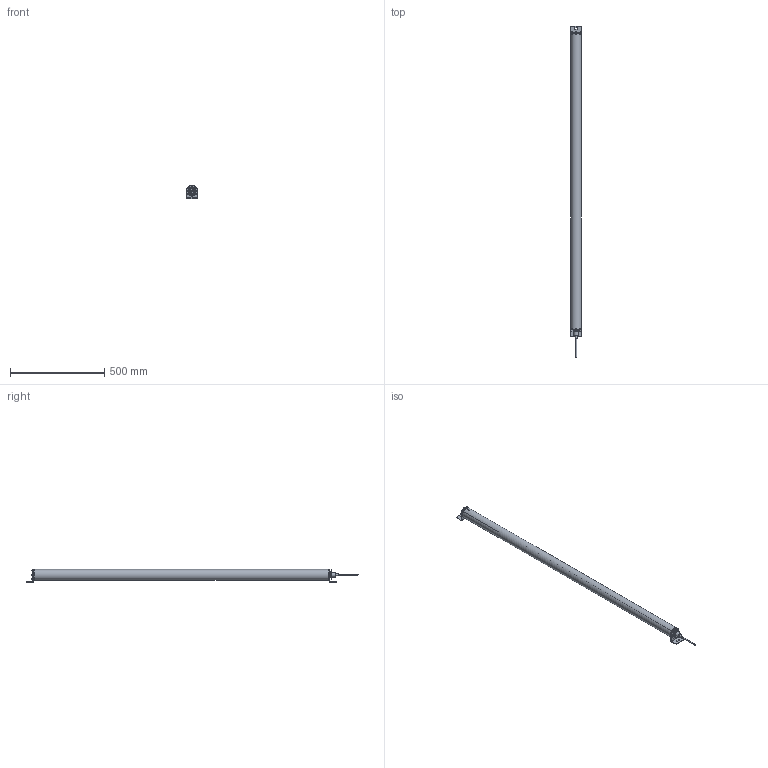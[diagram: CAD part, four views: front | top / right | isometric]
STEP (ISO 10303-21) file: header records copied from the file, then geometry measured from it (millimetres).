
FILE_DESCRIPTION(/* description */ (''),/* implementation_level */ '2;1');
FILE_NAME(/* name */ 'C:\ACADFILES\MG_PYLONS\IGES\MG-60-PYLON_3D_SMB_PT.stp',/* time_stamp */ '2018-06-15T11:30:03-05:00',/* author */ ('ENGINEERMAIN'),/* organization */ ('unknown'),/* preprocessor_version */ 'ST-DEVELOPER v17',/* originating_system */ 'Autodesk Inventor 2018',/* authorisation */ '');
FILE_SCHEMA (('CONFIG_CONTROL_DESIGN'));
Length unit declared in the file: inch
Products named in the file (1): MG-60-PYLON_3D_SMB_PT
Bounding box: 57.29 x 1763.84 x 69.85 mm (x, y, z)
Volume: 1426854.9 mm3; surface area: 1153348.4 mm2
Topology: 32 solids, 33 shells, 779 faces, 1762 edges, 1068 vertices
Faces by surface type: plane 590, cone 80, cylinder 77, bspline 16, torus 16
Full cylindrical faces by diameter (mm): 2.845 x16, 2.886 x2, 3.045 x8, 3.067 x1, 3.969 x1, 5.563 x16, 7.443 x3, 9.741 x1, 24.181 x1, 26.649 x1, 27.94 x2, 31.929 x1, 34.075 x1, 34.314 x2, 51.162 x1, 56.979 x2, 57.15 x3
Entity records: 21936 total; most frequent: CARTESIAN_POINT 4824, ORIENTED_EDGE 3522, DIRECTION 3462, EDGE_CURVE 1762, AXIS2_PLACEMENT_3D 1223, VERTEX_POINT 1068, LINE 1016, VECTOR 1016
